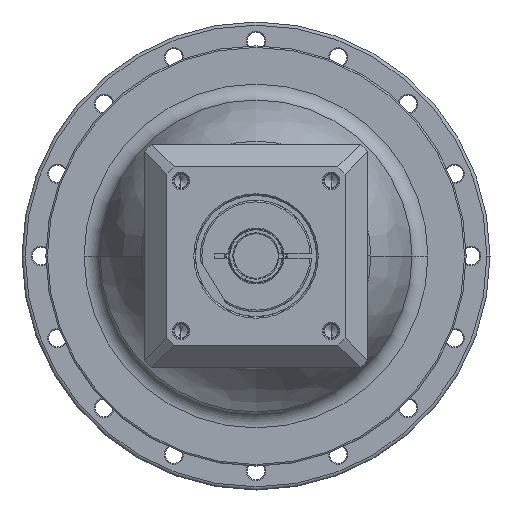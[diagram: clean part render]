
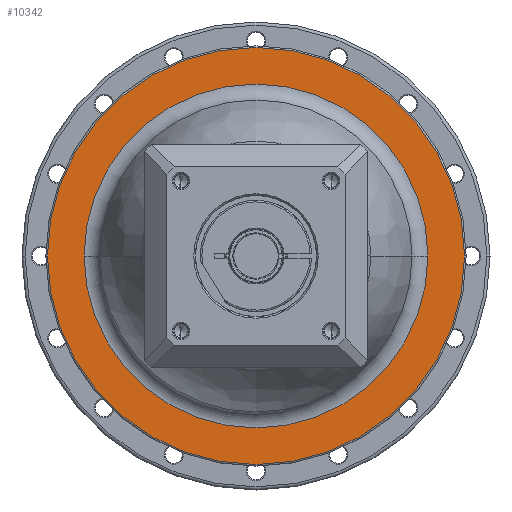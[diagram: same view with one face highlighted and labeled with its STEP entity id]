
A CAD part, left-side view. The second image highlights one B-rep face of the part: STEP entity #10342.
In plain terms, the highlighted planar face has unit normal (-1, 0, 0) as drawn and (1, 0, 0) by its records, which use the part's own axes.
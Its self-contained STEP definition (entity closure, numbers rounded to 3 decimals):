
#9882=CARTESIAN_POINT('',(-39.,0.,0.));
#9883=DIRECTION('',(-1.,0.,0.));
#9884=DIRECTION('',(0.,1.,0.));
#9885=AXIS2_PLACEMENT_3D('',#9882,#9883,#9884);
#9892=CARTESIAN_POINT('',(-39.,0.,0.));
#9893=DIRECTION('',(1.,0.,0.));
#9894=DIRECTION('',(0.,1.,0.));
#9895=AXIS2_PLACEMENT_3D('',#9892,#9893,#9894);
#9897=CARTESIAN_POINT('',(-39.,0.,0.));
#9898=DIRECTION('',(-1.,0.,0.));
#9899=DIRECTION('',(0.,-1.,0.));
#9900=AXIS2_PLACEMENT_3D('',#9897,#9898,#9899);
#9902=CARTESIAN_POINT('',(-39.,0.,0.));
#9903=DIRECTION('',(-1.,0.,0.));
#9904=DIRECTION('',(0.,1.,0.));
#9905=AXIS2_PLACEMENT_3D('',#9902,#9903,#9904);
#10027=CARTESIAN_POINT('',(-39.,-65.5,0.));
#10028=CARTESIAN_POINT('',(-39.,65.5,0.));
#10029=VERTEX_POINT('',#10027);
#10030=VERTEX_POINT('',#10028);
#10055=CARTESIAN_POINT('',(-39.,54.,0.));
#10057=VERTEX_POINT('',#10055);
#10059=CARTESIAN_POINT('',(-39.,-54.,0.));
#10061=VERTEX_POINT('',#10059);
#10327=CARTESIAN_POINT('',(-39.,0.,0.));
#10328=DIRECTION('',(1.,0.,0.));
#10329=DIRECTION('',(0.,-1.,0.));
#10330=AXIS2_PLACEMENT_3D('',#10327,#10328,#10329);
#10331=PLANE('',#10330);
#10333=ORIENTED_EDGE('',*,*,#10332,.T.);
#10335=ORIENTED_EDGE('',*,*,#10334,.T.);
#10336=EDGE_LOOP('',(#10333,#10335));
#10337=FACE_OUTER_BOUND('',#10336,.F.);
#10338=ORIENTED_EDGE('',*,*,#10322,.T.);
#10339=ORIENTED_EDGE('',*,*,#10306,.F.);
#10340=EDGE_LOOP('',(#10338,#10339));
#10341=FACE_BOUND('',#10340,.F.);
#10342=ADVANCED_FACE('',(#10337,#10341),#10331,.T.);
#9886=CIRCLE('',#9885,54.);
#9896=CIRCLE('',#9895,54.);
#9901=CIRCLE('',#9900,65.5);
#9906=CIRCLE('',#9905,65.5);
#10306=EDGE_CURVE('',#10057,#10061,#9886,.T.);
#10322=EDGE_CURVE('',#10057,#10061,#9896,.T.);
#10332=EDGE_CURVE('',#10029,#10030,#9901,.T.);
#10334=EDGE_CURVE('',#10030,#10029,#9906,.T.);
